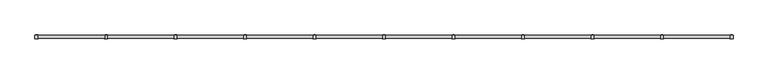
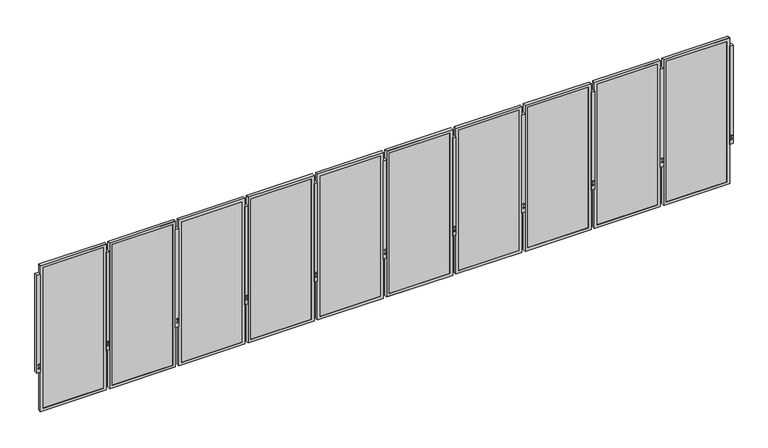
"""IFC4 building model written with IfcOpenShell, lengths in millimetres: railing geometry, Railing - Amico Architectural - Expanded Mesh Railing - Pisa."""

from ifc_helpers import new_model, si_unit, frame, origin, place, context, project, spatial, polyline, outline, extrude, faceted_brep, source, transform, mapped, element, save


def railing_ea33e46e(model_context):
    return source(origin(), model_context, "Body", "SolidModel", [
        extrude(outline(polyline([(-18849.3911619, -31394.8179764), (-18798.5911619, -31394.8179764), (-18798.5911619, -31445.6179764), (-18849.3911619, -31445.6179764), (-18849.3911619, -31394.8179764)])), frame((0.0, 0.0, -609.6), z_axis=(0.0, 0.0, 1.0), x_axis=(1.0, 0.0, 0.0)), (0.0, 0.0, 1.0), 1524.0),
        extrude(outline(polyline([(-530.1129981, -18834.4117321), (-542.3802561, -18831.1247302), (-545.667258, -18818.8574722), (-536.6870019, -18809.8772161), (-524.4197439, -18813.1642179), (-521.132742, -18825.4314759), (-530.1129981, -18834.4117321)])), frame((0.0, -31447.4646642, 0.0), z_axis=(0.0, 1.0, 0.0), x_axis=(0.0, 0.0, 1.0)), (0.0, 0.0, 1.0), 54.4933756),
        extrude(outline(polyline([(-479.3129981, -18834.4117321), (-491.5802561, -18831.1247302), (-494.867258, -18818.8574722), (-485.8870019, -18809.8772161), (-473.6197439, -18813.1642179), (-470.332742, -18825.4314759), (-479.3129981, -18834.4117321)])), frame((0.0, -31447.4646642, 0.0), z_axis=(0.0, 1.0, 0.0), x_axis=(0.0, 0.0, 1.0)), (0.0, 0.0, 1.0), 54.4933756),
        faceted_brep([(-19815.7956153, -31442.0111764, -1222.375), (-18847.4206153, -31442.0111764, -1222.375), (-18847.4206153, -31442.0111764, 1044.575), (-19815.7956153, -31442.0111764, 1044.575), (-19774.5206153, -31442.0111764, 1003.3), (-18888.6956153, -31442.0111764, 1003.3), (-18888.6956153, -31442.0111764, -1181.1), (-19774.5206153, -31442.0111764, -1181.1), (-19774.5206153, -31439.2679764, 1003.3), (-19774.5206153, -31439.2679764, -1181.1), (-19815.7956153, -31398.1378799, 1044.575), (-19815.7956153, -31398.1378799, -1222.375), (-19812.6206153, -31398.1378799, 1041.4), (-19812.6206153, -31439.2679764, 1041.4), (-19812.6206153, -31439.2679764, -1219.2), (-19812.6206153, -31398.1378799, -1219.2), (-18888.6956153, -31439.2679764, -1181.1), (-18847.4206153, -31398.1378799, -1222.375), (-18850.5956153, -31439.2679764, -1219.2), (-18850.5956153, -31398.1378799, -1219.2), (-18888.6956153, -31439.2679764, 1003.3), (-18847.4206153, -31398.1378799, 1044.575), (-18850.5956153, -31439.2679764, 1041.4), (-18850.5956153, -31398.1378799, 1041.4)], [[[0, 1, 2, 3], [4, 5, 6, 7]], [[8, 4, 7, 9]], [[3, 10, 11, 0]], [[12, 13, 14, 15]], [[9, 7, 6, 16]], [[0, 11, 17, 1]], [[15, 14, 18, 19]], [[16, 6, 5, 20]], [[1, 17, 21, 2]], [[19, 18, 22, 23]], [[20, 5, 4, 8]], [[10, 21, 17, 11], [15, 19, 23, 12]], [[2, 21, 10, 3]], [[13, 22, 18, 14], [9, 16, 20, 8]], [[23, 22, 13, 12]]]),
        extrude(outline(polyline([(-19812.6206153, -31429.7429764), (-18850.5956153, -31429.7429764), (-18850.5956153, -31439.2679764), (-19812.6206153, -31439.2679764), (-19812.6206153, -31429.7429764)])), frame((0.0, 0.0, -1219.2), z_axis=(0.0, 0.0, 1.0), x_axis=(1.0, 0.0, 0.0)), (0.0, 0.0, 1.0), 2260.6),
        extrude(outline(polyline([(-19866.9786619, -31394.8179764), (-19816.1786619, -31394.8179764), (-19816.1786619, -31445.6179764), (-19866.9786619, -31445.6179764), (-19866.9786619, -31394.8179764)])), frame((0.0, 0.0, -609.6), z_axis=(0.0, 0.0, 1.0), x_axis=(1.0, 0.0, 0.0)), (0.0, 0.0, 1.0), 1524.0),
        extrude(outline(polyline([(-530.1129981, -19851.9992321), (-542.3802561, -19848.7122302), (-545.667258, -19836.4449722), (-536.6870019, -19827.4647161), (-524.4197439, -19830.7517179), (-521.132742, -19843.0189759), (-530.1129981, -19851.9992321)])), frame((0.0, -31447.4646642, 0.0), z_axis=(0.0, 1.0, 0.0), x_axis=(0.0, 0.0, 1.0)), (0.0, 0.0, 1.0), 54.4933756),
        extrude(outline(polyline([(-479.3129981, -19851.9992321), (-491.5802561, -19848.7122302), (-494.867258, -19836.4449722), (-485.8870019, -19827.4647161), (-473.6197439, -19830.7517179), (-470.332742, -19843.0189759), (-479.3129981, -19851.9992321)])), frame((0.0, -31447.4646642, 0.0), z_axis=(0.0, 1.0, 0.0), x_axis=(0.0, 0.0, 1.0)), (0.0, 0.0, 1.0), 54.4933756),
        faceted_brep([(-20833.3831153, -31442.0111764, -1222.375), (-19865.0081153, -31442.0111764, -1222.375), (-19865.0081153, -31442.0111764, 1044.575), (-20833.3831153, -31442.0111764, 1044.575), (-20792.1081153, -31442.0111764, 1003.3), (-19906.2831153, -31442.0111764, 1003.3), (-19906.2831153, -31442.0111764, -1181.1), (-20792.1081153, -31442.0111764, -1181.1), (-20792.1081153, -31439.2679764, 1003.3), (-20792.1081153, -31439.2679764, -1181.1), (-20833.3831153, -31398.1378799, 1044.575), (-20833.3831153, -31398.1378799, -1222.375), (-20830.2081153, -31398.1378799, 1041.4), (-20830.2081153, -31439.2679764, 1041.4), (-20830.2081153, -31439.2679764, -1219.2), (-20830.2081153, -31398.1378799, -1219.2), (-19906.2831153, -31439.2679764, -1181.1), (-19865.0081153, -31398.1378799, -1222.375), (-19868.1831153, -31439.2679764, -1219.2), (-19868.1831153, -31398.1378799, -1219.2), (-19906.2831153, -31439.2679764, 1003.3), (-19865.0081153, -31398.1378799, 1044.575), (-19868.1831153, -31439.2679764, 1041.4), (-19868.1831153, -31398.1378799, 1041.4)], [[[0, 1, 2, 3], [4, 5, 6, 7]], [[8, 4, 7, 9]], [[3, 10, 11, 0]], [[12, 13, 14, 15]], [[9, 7, 6, 16]], [[0, 11, 17, 1]], [[15, 14, 18, 19]], [[16, 6, 5, 20]], [[1, 17, 21, 2]], [[19, 18, 22, 23]], [[20, 5, 4, 8]], [[10, 21, 17, 11], [15, 19, 23, 12]], [[2, 21, 10, 3]], [[13, 22, 18, 14], [9, 16, 20, 8]], [[23, 22, 13, 12]]]),
        extrude(outline(polyline([(-20830.2081153, -31429.7429764), (-19868.1831153, -31429.7429764), (-19868.1831153, -31439.2679764), (-20830.2081153, -31439.2679764), (-20830.2081153, -31429.7429764)])), frame((0.0, 0.0, -1219.2), z_axis=(0.0, 0.0, 1.0), x_axis=(1.0, 0.0, 0.0)), (0.0, 0.0, 1.0), 2260.6),
        extrude(outline(polyline([(-20884.5661619, -31394.8179764), (-20833.7661619, -31394.8179764), (-20833.7661619, -31445.6179764), (-20884.5661619, -31445.6179764), (-20884.5661619, -31394.8179764)])), frame((0.0, 0.0, -609.6), z_axis=(0.0, 0.0, 1.0), x_axis=(1.0, 0.0, 0.0)), (0.0, 0.0, 1.0), 1524.0),
        extrude(outline(polyline([(-530.1129981, -20869.5867321), (-542.3802561, -20866.2997302), (-545.667258, -20854.0324722), (-536.6870019, -20845.0522161), (-524.4197439, -20848.3392179), (-521.132742, -20860.6064759), (-530.1129981, -20869.5867321)])), frame((0.0, -31447.4646642, 0.0), z_axis=(0.0, 1.0, 0.0), x_axis=(0.0, 0.0, 1.0)), (0.0, 0.0, 1.0), 54.4933756),
        extrude(outline(polyline([(-479.3129981, -20869.5867321), (-491.5802561, -20866.2997302), (-494.867258, -20854.0324722), (-485.8870019, -20845.0522161), (-473.6197439, -20848.3392179), (-470.332742, -20860.6064759), (-479.3129981, -20869.5867321)])), frame((0.0, -31447.4646642, 0.0), z_axis=(0.0, 1.0, 0.0), x_axis=(0.0, 0.0, 1.0)), (0.0, 0.0, 1.0), 54.4933756),
        faceted_brep([(-21850.9706153, -31442.0111764, -1222.375), (-20882.5956153, -31442.0111764, -1222.375), (-20882.5956153, -31442.0111764, 1044.575), (-21850.9706153, -31442.0111764, 1044.575), (-21809.6956153, -31442.0111764, 1003.3), (-20923.8706153, -31442.0111764, 1003.3), (-20923.8706153, -31442.0111764, -1181.1), (-21809.6956153, -31442.0111764, -1181.1), (-21809.6956153, -31439.2679764, 1003.3), (-21809.6956153, -31439.2679764, -1181.1), (-21850.9706153, -31398.1378799, 1044.575), (-21850.9706153, -31398.1378799, -1222.375), (-21847.7956153, -31398.1378799, 1041.4), (-21847.7956153, -31439.2679764, 1041.4), (-21847.7956153, -31439.2679764, -1219.2), (-21847.7956153, -31398.1378799, -1219.2), (-20923.8706153, -31439.2679764, -1181.1), (-20882.5956153, -31398.1378799, -1222.375), (-20885.7706153, -31439.2679764, -1219.2), (-20885.7706153, -31398.1378799, -1219.2), (-20923.8706153, -31439.2679764, 1003.3), (-20882.5956153, -31398.1378799, 1044.575), (-20885.7706153, -31439.2679764, 1041.4), (-20885.7706153, -31398.1378799, 1041.4)], [[[0, 1, 2, 3], [4, 5, 6, 7]], [[8, 4, 7, 9]], [[3, 10, 11, 0]], [[12, 13, 14, 15]], [[9, 7, 6, 16]], [[0, 11, 17, 1]], [[15, 14, 18, 19]], [[16, 6, 5, 20]], [[1, 17, 21, 2]], [[19, 18, 22, 23]], [[20, 5, 4, 8]], [[10, 21, 17, 11], [15, 19, 23, 12]], [[2, 21, 10, 3]], [[13, 22, 18, 14], [9, 16, 20, 8]], [[23, 22, 13, 12]]]),
        extrude(outline(polyline([(-21847.7956153, -31429.7429764), (-20885.7706153, -31429.7429764), (-20885.7706153, -31439.2679764), (-21847.7956153, -31439.2679764), (-21847.7956153, -31429.7429764)])), frame((0.0, 0.0, -1219.2), z_axis=(0.0, 0.0, 1.0), x_axis=(1.0, 0.0, 0.0)), (0.0, 0.0, 1.0), 2260.6),
        extrude(outline(polyline([(-21902.1536619, -31394.8179764), (-21851.3536619, -31394.8179764), (-21851.3536619, -31445.6179764), (-21902.1536619, -31445.6179764), (-21902.1536619, -31394.8179764)])), frame((0.0, 0.0, -609.6), z_axis=(0.0, 0.0, 1.0), x_axis=(1.0, 0.0, 0.0)), (0.0, 0.0, 1.0), 1524.0),
        extrude(outline(polyline([(-530.1129981, -21887.1742321), (-542.3802561, -21883.8872302), (-545.667258, -21871.6199722), (-536.6870019, -21862.6397161), (-524.4197439, -21865.9267179), (-521.132742, -21878.1939759), (-530.1129981, -21887.1742321)])), frame((0.0, -31447.4646642, 0.0), z_axis=(0.0, 1.0, 0.0), x_axis=(0.0, 0.0, 1.0)), (0.0, 0.0, 1.0), 54.4933756),
        extrude(outline(polyline([(-479.3129981, -21887.1742321), (-491.5802561, -21883.8872302), (-494.867258, -21871.6199722), (-485.8870019, -21862.6397161), (-473.6197439, -21865.9267179), (-470.332742, -21878.1939759), (-479.3129981, -21887.1742321)])), frame((0.0, -31447.4646642, 0.0), z_axis=(0.0, 1.0, 0.0), x_axis=(0.0, 0.0, 1.0)), (0.0, 0.0, 1.0), 54.4933756),
        faceted_brep([(-22868.5581153, -31442.0111764, -1222.375), (-21900.1831153, -31442.0111764, -1222.375), (-21900.1831153, -31442.0111764, 1044.575), (-22868.5581153, -31442.0111764, 1044.575), (-22827.2831153, -31442.0111764, 1003.3), (-21941.4581153, -31442.0111764, 1003.3), (-21941.4581153, -31442.0111764, -1181.1), (-22827.2831153, -31442.0111764, -1181.1), (-22827.2831153, -31439.2679764, 1003.3), (-22827.2831153, -31439.2679764, -1181.1), (-22868.5581153, -31398.1378799, 1044.575), (-22868.5581153, -31398.1378799, -1222.375), (-22865.3831153, -31398.1378799, 1041.4), (-22865.3831153, -31439.2679764, 1041.4), (-22865.3831153, -31439.2679764, -1219.2), (-22865.3831153, -31398.1378799, -1219.2), (-21941.4581153, -31439.2679764, -1181.1), (-21900.1831153, -31398.1378799, -1222.375), (-21903.3581153, -31439.2679764, -1219.2), (-21903.3581153, -31398.1378799, -1219.2), (-21941.4581153, -31439.2679764, 1003.3), (-21900.1831153, -31398.1378799, 1044.575), (-21903.3581153, -31439.2679764, 1041.4), (-21903.3581153, -31398.1378799, 1041.4)], [[[0, 1, 2, 3], [4, 5, 6, 7]], [[8, 4, 7, 9]], [[3, 10, 11, 0]], [[12, 13, 14, 15]], [[9, 7, 6, 16]], [[0, 11, 17, 1]], [[15, 14, 18, 19]], [[16, 6, 5, 20]], [[1, 17, 21, 2]], [[19, 18, 22, 23]], [[20, 5, 4, 8]], [[10, 21, 17, 11], [15, 19, 23, 12]], [[2, 21, 10, 3]], [[13, 22, 18, 14], [9, 16, 20, 8]], [[23, 22, 13, 12]]]),
        extrude(outline(polyline([(-22865.3831153, -31429.7429764), (-21903.3581153, -31429.7429764), (-21903.3581153, -31439.2679764), (-22865.3831153, -31439.2679764), (-22865.3831153, -31429.7429764)])), frame((0.0, 0.0, -1219.2), z_axis=(0.0, 0.0, 1.0), x_axis=(1.0, 0.0, 0.0)), (0.0, 0.0, 1.0), 2260.6),
        extrude(outline(polyline([(-22919.7411619, -31394.8179764), (-22868.9411619, -31394.8179764), (-22868.9411619, -31445.6179764), (-22919.7411619, -31445.6179764), (-22919.7411619, -31394.8179764)])), frame((0.0, 0.0, -609.6), z_axis=(0.0, 0.0, 1.0), x_axis=(1.0, 0.0, 0.0)), (0.0, 0.0, 1.0), 1524.0),
        extrude(outline(polyline([(-530.1129981, -22904.7617321), (-542.3802561, -22901.4747302), (-545.667258, -22889.2074722), (-536.6870019, -22880.2272161), (-524.4197439, -22883.5142179), (-521.132742, -22895.7814759), (-530.1129981, -22904.7617321)])), frame((0.0, -31447.4646642, 0.0), z_axis=(0.0, 1.0, 0.0), x_axis=(0.0, 0.0, 1.0)), (0.0, 0.0, 1.0), 54.4933756),
        extrude(outline(polyline([(-479.3129981, -22904.7617321), (-491.5802561, -22901.4747302), (-494.867258, -22889.2074722), (-485.8870019, -22880.2272161), (-473.6197439, -22883.5142179), (-470.332742, -22895.7814759), (-479.3129981, -22904.7617321)])), frame((0.0, -31447.4646642, 0.0), z_axis=(0.0, 1.0, 0.0), x_axis=(0.0, 0.0, 1.0)), (0.0, 0.0, 1.0), 54.4933756),
        faceted_brep([(-23886.1456153, -31442.0111764, -1222.375), (-22917.7706153, -31442.0111764, -1222.375), (-22917.7706153, -31442.0111764, 1044.575), (-23886.1456153, -31442.0111764, 1044.575), (-23844.8706153, -31442.0111764, 1003.3), (-22959.0456153, -31442.0111764, 1003.3), (-22959.0456153, -31442.0111764, -1181.1), (-23844.8706153, -31442.0111764, -1181.1), (-23844.8706153, -31439.2679764, 1003.3), (-23844.8706153, -31439.2679764, -1181.1), (-23886.1456153, -31398.1378799, 1044.575), (-23886.1456153, -31398.1378799, -1222.375), (-23882.9706153, -31398.1378799, 1041.4), (-23882.9706153, -31439.2679764, 1041.4), (-23882.9706153, -31439.2679764, -1219.2), (-23882.9706153, -31398.1378799, -1219.2), (-22959.0456153, -31439.2679764, -1181.1), (-22917.7706153, -31398.1378799, -1222.375), (-22920.9456153, -31439.2679764, -1219.2), (-22920.9456153, -31398.1378799, -1219.2), (-22959.0456153, -31439.2679764, 1003.3), (-22917.7706153, -31398.1378799, 1044.575), (-22920.9456153, -31439.2679764, 1041.4), (-22920.9456153, -31398.1378799, 1041.4)], [[[0, 1, 2, 3], [4, 5, 6, 7]], [[8, 4, 7, 9]], [[3, 10, 11, 0]], [[12, 13, 14, 15]], [[9, 7, 6, 16]], [[0, 11, 17, 1]], [[15, 14, 18, 19]], [[16, 6, 5, 20]], [[1, 17, 21, 2]], [[19, 18, 22, 23]], [[20, 5, 4, 8]], [[10, 21, 17, 11], [15, 19, 23, 12]], [[2, 21, 10, 3]], [[13, 22, 18, 14], [9, 16, 20, 8]], [[23, 22, 13, 12]]]),
        extrude(outline(polyline([(-23882.9706153, -31429.7429764), (-22920.9456153, -31429.7429764), (-22920.9456153, -31439.2679764), (-23882.9706153, -31439.2679764), (-23882.9706153, -31429.7429764)])), frame((0.0, 0.0, -1219.2), z_axis=(0.0, 0.0, 1.0), x_axis=(1.0, 0.0, 0.0)), (0.0, 0.0, 1.0), 2260.6),
        extrude(outline(polyline([(-23937.3286619, -31394.8179764), (-23886.5286619, -31394.8179764), (-23886.5286619, -31445.6179764), (-23937.3286619, -31445.6179764), (-23937.3286619, -31394.8179764)])), frame((0.0, 0.0, -609.6), z_axis=(0.0, 0.0, 1.0), x_axis=(1.0, 0.0, 0.0)), (0.0, 0.0, 1.0), 1524.0),
        extrude(outline(polyline([(-530.1129981, -23922.3492321), (-542.3802561, -23919.0622302), (-545.667258, -23906.7949722), (-536.6870019, -23897.8147161), (-524.4197439, -23901.1017179), (-521.132742, -23913.3689759), (-530.1129981, -23922.3492321)])), frame((0.0, -31447.4646642, 0.0), z_axis=(0.0, 1.0, 0.0), x_axis=(0.0, 0.0, 1.0)), (0.0, 0.0, 1.0), 54.4933756),
        extrude(outline(polyline([(-479.3129981, -23922.3492321), (-491.5802561, -23919.0622302), (-494.867258, -23906.7949722), (-485.8870019, -23897.8147161), (-473.6197439, -23901.1017179), (-470.332742, -23913.3689759), (-479.3129981, -23922.3492321)])), frame((0.0, -31447.4646642, 0.0), z_axis=(0.0, 1.0, 0.0), x_axis=(0.0, 0.0, 1.0)), (0.0, 0.0, 1.0), 54.4933756),
        faceted_brep([(-24903.7331153, -31442.0111764, -1222.375), (-23935.3581153, -31442.0111764, -1222.375), (-23935.3581153, -31442.0111764, 1044.575), (-24903.7331153, -31442.0111764, 1044.575), (-24862.4581153, -31442.0111764, 1003.3), (-23976.6331153, -31442.0111764, 1003.3), (-23976.6331153, -31442.0111764, -1181.1), (-24862.4581153, -31442.0111764, -1181.1), (-24862.4581153, -31439.2679764, 1003.3), (-24862.4581153, -31439.2679764, -1181.1), (-24903.7331153, -31398.1378799, 1044.575), (-24903.7331153, -31398.1378799, -1222.375), (-24900.5581153, -31398.1378799, 1041.4), (-24900.5581153, -31439.2679764, 1041.4), (-24900.5581153, -31439.2679764, -1219.2), (-24900.5581153, -31398.1378799, -1219.2), (-23976.6331153, -31439.2679764, -1181.1), (-23935.3581153, -31398.1378799, -1222.375), (-23938.5331153, -31439.2679764, -1219.2), (-23938.5331153, -31398.1378799, -1219.2), (-23976.6331153, -31439.2679764, 1003.3), (-23935.3581153, -31398.1378799, 1044.575), (-23938.5331153, -31439.2679764, 1041.4), (-23938.5331153, -31398.1378799, 1041.4)], [[[0, 1, 2, 3], [4, 5, 6, 7]], [[8, 4, 7, 9]], [[3, 10, 11, 0]], [[12, 13, 14, 15]], [[9, 7, 6, 16]], [[0, 11, 17, 1]], [[15, 14, 18, 19]], [[16, 6, 5, 20]], [[1, 17, 21, 2]], [[19, 18, 22, 23]], [[20, 5, 4, 8]], [[10, 21, 17, 11], [15, 19, 23, 12]], [[2, 21, 10, 3]], [[13, 22, 18, 14], [9, 16, 20, 8]], [[23, 22, 13, 12]]]),
        extrude(outline(polyline([(-24900.5581153, -31429.7429764), (-23938.5331153, -31429.7429764), (-23938.5331153, -31439.2679764), (-24900.5581153, -31439.2679764), (-24900.5581153, -31429.7429764)])), frame((0.0, 0.0, -1219.2), z_axis=(0.0, 0.0, 1.0), x_axis=(1.0, 0.0, 0.0)), (0.0, 0.0, 1.0), 2260.6),
        extrude(outline(polyline([(-24954.9161619, -31394.8179764), (-24904.1161619, -31394.8179764), (-24904.1161619, -31445.6179764), (-24954.9161619, -31445.6179764), (-24954.9161619, -31394.8179764)])), frame((0.0, 0.0, -609.6), z_axis=(0.0, 0.0, 1.0), x_axis=(1.0, 0.0, 0.0)), (0.0, 0.0, 1.0), 1524.0),
        extrude(outline(polyline([(-530.1129981, -24939.9367321), (-542.3802561, -24936.6497302), (-545.667258, -24924.3824722), (-536.6870019, -24915.4022161), (-524.4197439, -24918.6892179), (-521.132742, -24930.9564759), (-530.1129981, -24939.9367321)])), frame((0.0, -31447.4646642, 0.0), z_axis=(0.0, 1.0, 0.0), x_axis=(0.0, 0.0, 1.0)), (0.0, 0.0, 1.0), 54.4933756),
        extrude(outline(polyline([(-479.3129981, -24939.9367321), (-491.5802561, -24936.6497302), (-494.867258, -24924.3824722), (-485.8870019, -24915.4022161), (-473.6197439, -24918.6892179), (-470.332742, -24930.9564759), (-479.3129981, -24939.9367321)])), frame((0.0, -31447.4646642, 0.0), z_axis=(0.0, 1.0, 0.0), x_axis=(0.0, 0.0, 1.0)), (0.0, 0.0, 1.0), 54.4933756),
        faceted_brep([(-25921.3206153, -31442.0111764, -1222.375), (-24952.9456153, -31442.0111764, -1222.375), (-24952.9456153, -31442.0111764, 1044.575), (-25921.3206153, -31442.0111764, 1044.575), (-25880.0456153, -31442.0111764, 1003.3), (-24994.2206153, -31442.0111764, 1003.3), (-24994.2206153, -31442.0111764, -1181.1), (-25880.0456153, -31442.0111764, -1181.1), (-25880.0456153, -31439.2679764, 1003.3), (-25880.0456153, -31439.2679764, -1181.1), (-25921.3206153, -31398.1378799, 1044.575), (-25921.3206153, -31398.1378799, -1222.375), (-25918.1456153, -31398.1378799, 1041.4), (-25918.1456153, -31439.2679764, 1041.4), (-25918.1456153, -31439.2679764, -1219.2), (-25918.1456153, -31398.1378799, -1219.2), (-24994.2206153, -31439.2679764, -1181.1), (-24952.9456153, -31398.1378799, -1222.375), (-24956.1206153, -31439.2679764, -1219.2), (-24956.1206153, -31398.1378799, -1219.2), (-24994.2206153, -31439.2679764, 1003.3), (-24952.9456153, -31398.1378799, 1044.575), (-24956.1206153, -31439.2679764, 1041.4), (-24956.1206153, -31398.1378799, 1041.4)], [[[0, 1, 2, 3], [4, 5, 6, 7]], [[8, 4, 7, 9]], [[3, 10, 11, 0]], [[12, 13, 14, 15]], [[9, 7, 6, 16]], [[0, 11, 17, 1]], [[15, 14, 18, 19]], [[16, 6, 5, 20]], [[1, 17, 21, 2]], [[19, 18, 22, 23]], [[20, 5, 4, 8]], [[10, 21, 17, 11], [15, 19, 23, 12]], [[2, 21, 10, 3]], [[13, 22, 18, 14], [9, 16, 20, 8]], [[23, 22, 13, 12]]]),
        extrude(outline(polyline([(-25918.1456153, -31429.7429764), (-24956.1206153, -31429.7429764), (-24956.1206153, -31439.2679764), (-25918.1456153, -31439.2679764), (-25918.1456153, -31429.7429764)])), frame((0.0, 0.0, -1219.2), z_axis=(0.0, 0.0, 1.0), x_axis=(1.0, 0.0, 0.0)), (0.0, 0.0, 1.0), 2260.6),
        extrude(outline(polyline([(-25972.5036619, -31394.8179764), (-25921.7036619, -31394.8179764), (-25921.7036619, -31445.6179764), (-25972.5036619, -31445.6179764), (-25972.5036619, -31394.8179764)])), frame((0.0, 0.0, -609.6), z_axis=(0.0, 0.0, 1.0), x_axis=(1.0, 0.0, 0.0)), (0.0, 0.0, 1.0), 1524.0),
        extrude(outline(polyline([(-530.1129981, -25957.5242321), (-542.3802561, -25954.2372302), (-545.667258, -25941.9699722), (-536.6870019, -25932.9897161), (-524.4197439, -25936.2767179), (-521.132742, -25948.5439759), (-530.1129981, -25957.5242321)])), frame((0.0, -31447.4646642, 0.0), z_axis=(0.0, 1.0, 0.0), x_axis=(0.0, 0.0, 1.0)), (0.0, 0.0, 1.0), 54.4933756),
        extrude(outline(polyline([(-479.3129981, -25957.5242321), (-491.5802561, -25954.2372302), (-494.867258, -25941.9699722), (-485.8870019, -25932.9897161), (-473.6197439, -25936.2767179), (-470.332742, -25948.5439759), (-479.3129981, -25957.5242321)])), frame((0.0, -31447.4646642, 0.0), z_axis=(0.0, 1.0, 0.0), x_axis=(0.0, 0.0, 1.0)), (0.0, 0.0, 1.0), 54.4933756),
        faceted_brep([(-26938.9081153, -31442.0111764, -1222.375), (-25970.5331153, -31442.0111764, -1222.375), (-25970.5331153, -31442.0111764, 1044.575), (-26938.9081153, -31442.0111764, 1044.575), (-26897.6331153, -31442.0111764, 1003.3), (-26011.8081153, -31442.0111764, 1003.3), (-26011.8081153, -31442.0111764, -1181.1), (-26897.6331153, -31442.0111764, -1181.1), (-26897.6331153, -31439.2679764, 1003.3), (-26897.6331153, -31439.2679764, -1181.1), (-26938.9081153, -31398.1378799, 1044.575), (-26938.9081153, -31398.1378799, -1222.375), (-26935.7331153, -31398.1378799, 1041.4), (-26935.7331153, -31439.2679764, 1041.4), (-26935.7331153, -31439.2679764, -1219.2), (-26935.7331153, -31398.1378799, -1219.2), (-26011.8081153, -31439.2679764, -1181.1), (-25970.5331153, -31398.1378799, -1222.375), (-25973.7081153, -31439.2679764, -1219.2), (-25973.7081153, -31398.1378799, -1219.2), (-26011.8081153, -31439.2679764, 1003.3), (-25970.5331153, -31398.1378799, 1044.575), (-25973.7081153, -31439.2679764, 1041.4), (-25973.7081153, -31398.1378799, 1041.4)], [[[0, 1, 2, 3], [4, 5, 6, 7]], [[8, 4, 7, 9]], [[3, 10, 11, 0]], [[12, 13, 14, 15]], [[9, 7, 6, 16]], [[0, 11, 17, 1]], [[15, 14, 18, 19]], [[16, 6, 5, 20]], [[1, 17, 21, 2]], [[19, 18, 22, 23]], [[20, 5, 4, 8]], [[10, 21, 17, 11], [15, 19, 23, 12]], [[2, 21, 10, 3]], [[13, 22, 18, 14], [9, 16, 20, 8]], [[23, 22, 13, 12]]]),
        extrude(outline(polyline([(-26935.7331153, -31429.7429764), (-25973.7081153, -31429.7429764), (-25973.7081153, -31439.2679764), (-26935.7331153, -31439.2679764), (-26935.7331153, -31429.7429764)])), frame((0.0, 0.0, -1219.2), z_axis=(0.0, 0.0, 1.0), x_axis=(1.0, 0.0, 0.0)), (0.0, 0.0, 1.0), 2260.6),
        extrude(outline(polyline([(-26990.0911619, -31394.8179764), (-26939.2911619, -31394.8179764), (-26939.2911619, -31445.6179764), (-26990.0911619, -31445.6179764), (-26990.0911619, -31394.8179764)])), frame((0.0, 0.0, -609.6), z_axis=(0.0, 0.0, 1.0), x_axis=(1.0, 0.0, 0.0)), (0.0, 0.0, 1.0), 1524.0),
        extrude(outline(polyline([(-530.1129981, -26975.1117321), (-542.3802561, -26971.8247302), (-545.667258, -26959.5574722), (-536.6870019, -26950.5772161), (-524.4197439, -26953.8642179), (-521.132742, -26966.1314759), (-530.1129981, -26975.1117321)])), frame((0.0, -31447.4646642, 0.0), z_axis=(0.0, 1.0, 0.0), x_axis=(0.0, 0.0, 1.0)), (0.0, 0.0, 1.0), 54.4933756),
        extrude(outline(polyline([(-479.3129981, -26975.1117321), (-491.5802561, -26971.8247302), (-494.867258, -26959.5574722), (-485.8870019, -26950.5772161), (-473.6197439, -26953.8642179), (-470.332742, -26966.1314759), (-479.3129981, -26975.1117321)])), frame((0.0, -31447.4646642, 0.0), z_axis=(0.0, 1.0, 0.0), x_axis=(0.0, 0.0, 1.0)), (0.0, 0.0, 1.0), 54.4933756),
        faceted_brep([(-27956.4956153, -31442.0111764, -1222.375), (-26988.1206153, -31442.0111764, -1222.375), (-26988.1206153, -31442.0111764, 1044.575), (-27956.4956153, -31442.0111764, 1044.575), (-27915.2206153, -31442.0111764, 1003.3), (-27029.3956153, -31442.0111764, 1003.3), (-27029.3956153, -31442.0111764, -1181.1), (-27915.2206153, -31442.0111764, -1181.1), (-27915.2206153, -31439.2679764, 1003.3), (-27915.2206153, -31439.2679764, -1181.1), (-27956.4956153, -31398.1378799, 1044.575), (-27956.4956153, -31398.1378799, -1222.375), (-27953.3206153, -31398.1378799, 1041.4), (-27953.3206153, -31439.2679764, 1041.4), (-27953.3206153, -31439.2679764, -1219.2), (-27953.3206153, -31398.1378799, -1219.2), (-27029.3956153, -31439.2679764, -1181.1), (-26988.1206153, -31398.1378799, -1222.375), (-26991.2956153, -31439.2679764, -1219.2), (-26991.2956153, -31398.1378799, -1219.2), (-27029.3956153, -31439.2679764, 1003.3), (-26988.1206153, -31398.1378799, 1044.575), (-26991.2956153, -31439.2679764, 1041.4), (-26991.2956153, -31398.1378799, 1041.4)], [[[0, 1, 2, 3], [4, 5, 6, 7]], [[8, 4, 7, 9]], [[3, 10, 11, 0]], [[12, 13, 14, 15]], [[9, 7, 6, 16]], [[0, 11, 17, 1]], [[15, 14, 18, 19]], [[16, 6, 5, 20]], [[1, 17, 21, 2]], [[19, 18, 22, 23]], [[20, 5, 4, 8]], [[10, 21, 17, 11], [15, 19, 23, 12]], [[2, 21, 10, 3]], [[13, 22, 18, 14], [9, 16, 20, 8]], [[23, 22, 13, 12]]]),
        extrude(outline(polyline([(-27953.3206153, -31429.7429764), (-26991.2956153, -31429.7429764), (-26991.2956153, -31439.2679764), (-27953.3206153, -31439.2679764), (-27953.3206153, -31429.7429764)])), frame((0.0, 0.0, -1219.2), z_axis=(0.0, 0.0, 1.0), x_axis=(1.0, 0.0, 0.0)), (0.0, 0.0, 1.0), 2260.6),
        extrude(outline(polyline([(-28007.6786619, -31394.8179764), (-27956.8786619, -31394.8179764), (-27956.8786619, -31445.6179764), (-28007.6786619, -31445.6179764), (-28007.6786619, -31394.8179764)])), frame((0.0, 0.0, -609.6), z_axis=(0.0, 0.0, 1.0), x_axis=(1.0, 0.0, 0.0)), (0.0, 0.0, 1.0), 1524.0),
        extrude(outline(polyline([(-530.1129981, -27992.6992321), (-542.3802561, -27989.4122302), (-545.667258, -27977.1449722), (-536.6870019, -27968.1647161), (-524.4197439, -27971.4517179), (-521.132742, -27983.7189759), (-530.1129981, -27992.6992321)])), frame((0.0, -31447.4646642, 0.0), z_axis=(0.0, 1.0, 0.0), x_axis=(0.0, 0.0, 1.0)), (0.0, 0.0, 1.0), 54.4933756),
        extrude(outline(polyline([(-479.3129981, -27992.6992321), (-491.5802561, -27989.4122302), (-494.867258, -27977.1449722), (-485.8870019, -27968.1647161), (-473.6197439, -27971.4517179), (-470.332742, -27983.7189759), (-479.3129981, -27992.6992321)])), frame((0.0, -31447.4646642, 0.0), z_axis=(0.0, 1.0, 0.0), x_axis=(0.0, 0.0, 1.0)), (0.0, 0.0, 1.0), 54.4933756),
        faceted_brep([(-28974.0831153, -31442.0111764, -1222.375), (-28005.7081153, -31442.0111764, -1222.375), (-28005.7081153, -31442.0111764, 1044.575), (-28974.0831153, -31442.0111764, 1044.575), (-28932.8081153, -31442.0111764, 1003.3), (-28046.9831153, -31442.0111764, 1003.3), (-28046.9831153, -31442.0111764, -1181.1), (-28932.8081153, -31442.0111764, -1181.1), (-28932.8081153, -31439.2679764, 1003.3), (-28932.8081153, -31439.2679764, -1181.1), (-28974.0831153, -31398.1378799, 1044.575), (-28974.0831153, -31398.1378799, -1222.375), (-28970.9081153, -31398.1378799, 1041.4), (-28970.9081153, -31439.2679764, 1041.4), (-28970.9081153, -31439.2679764, -1219.2), (-28970.9081153, -31398.1378799, -1219.2), (-28046.9831153, -31439.2679764, -1181.1), (-28005.7081153, -31398.1378799, -1222.375), (-28008.8831153, -31439.2679764, -1219.2), (-28008.8831153, -31398.1378799, -1219.2), (-28046.9831153, -31439.2679764, 1003.3), (-28005.7081153, -31398.1378799, 1044.575), (-28008.8831153, -31439.2679764, 1041.4), (-28008.8831153, -31398.1378799, 1041.4)], [[[0, 1, 2, 3], [4, 5, 6, 7]], [[8, 4, 7, 9]], [[3, 10, 11, 0]], [[12, 13, 14, 15]], [[9, 7, 6, 16]], [[0, 11, 17, 1]], [[15, 14, 18, 19]], [[16, 6, 5, 20]], [[1, 17, 21, 2]], [[19, 18, 22, 23]], [[20, 5, 4, 8]], [[10, 21, 17, 11], [15, 19, 23, 12]], [[2, 21, 10, 3]], [[13, 22, 18, 14], [9, 16, 20, 8]], [[23, 22, 13, 12]]]),
        extrude(outline(polyline([(-28970.9081153, -31429.7429764), (-28008.8831153, -31429.7429764), (-28008.8831153, -31439.2679764), (-28970.9081153, -31439.2679764), (-28970.9081153, -31429.7429764)])), frame((0.0, 0.0, -1219.2), z_axis=(0.0, 0.0, 1.0), x_axis=(1.0, 0.0, 0.0)), (0.0, 0.0, 1.0), 2260.6),
        extrude(outline(polyline([(-29025.2661619, -31394.8179764), (-28974.4661619, -31394.8179764), (-28974.4661619, -31445.6179764), (-29025.2661619, -31445.6179764), (-29025.2661619, -31394.8179764)])), frame((0.0, 0.0, -609.6), z_axis=(0.0, 0.0, 1.0), x_axis=(1.0, 0.0, 0.0)), (0.0, 0.0, 1.0), 1524.0),
        extrude(outline(polyline([(-530.1129981, -29010.2867321), (-542.3802561, -29006.9997302), (-545.667258, -28994.7324722), (-536.6870019, -28985.7522161), (-524.4197439, -28989.0392179), (-521.132742, -29001.3064759), (-530.1129981, -29010.2867321)])), frame((0.0, -31447.4646642, 0.0), z_axis=(0.0, 1.0, 0.0), x_axis=(0.0, 0.0, 1.0)), (0.0, 0.0, 1.0), 54.4933756),
        extrude(outline(polyline([(-479.3129981, -29010.2867321), (-491.5802561, -29006.9997302), (-494.867258, -28994.7324722), (-485.8870019, -28985.7522161), (-473.6197439, -28989.0392179), (-470.332742, -29001.3064759), (-479.3129981, -29010.2867321)])), frame((0.0, -31447.4646642, 0.0), z_axis=(0.0, 1.0, 0.0), x_axis=(0.0, 0.0, 1.0)), (0.0, 0.0, 1.0), 54.4933756),
    ])


if __name__ == "__main__":
    model = new_model("IFC4")
    model_context = context("Model", 3, world=origin())
    ifc_project = project(units=[si_unit("LENGTHUNIT", "METRE", prefix="MILLI")], contexts=[model_context])
    site = spatial("IfcSite", under=ifc_project)
    building = spatial("IfcBuilding", under=site)
    placement = place(None, origin())
    railing_shape = railing_ea33e46e(model_context)
    element("IfcRailing", 1, ObjectType="Railing - Amico Architectural - Expanded Mesh Railing - Pisa", at=placement, inside=building, context=model_context, shape_type="MappedRepresentation", body=[
        mapped(railing_shape, transform((0.0, 0.0, 0.0), x_axis=(1.0, 0.0, 0.0), y_axis=(0.0, 1.0, 0.0), z_axis=(0.0, 0.0, 1.0))),
    ])
    save(model, "model.ifc")
